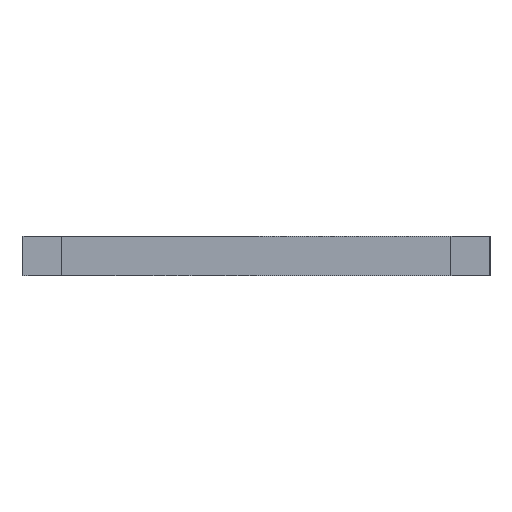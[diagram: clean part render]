
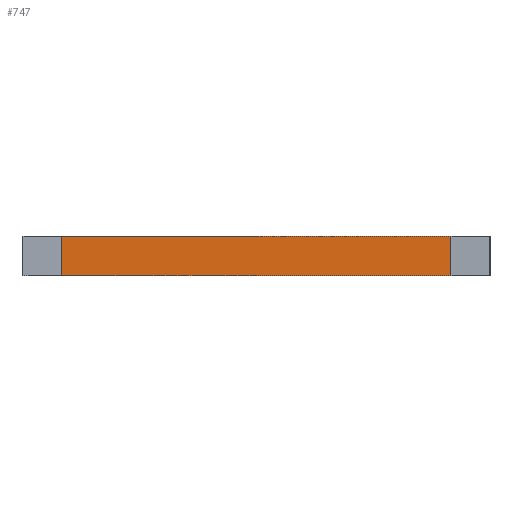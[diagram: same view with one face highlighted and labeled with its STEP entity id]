
A CAD part, left-side view. The second image highlights one B-rep face of the part: STEP entity #747.
In plain terms, the highlighted planar face has unit normal (-1, 0, 0).
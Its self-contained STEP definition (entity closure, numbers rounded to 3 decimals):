
#11 = CARTESIAN_POINT ( 'NONE',  ( 9.5, -2., 4. ) ) ;
#77 = VECTOR ( 'NONE', #827, 1000. ) ;
#81 = CARTESIAN_POINT ( 'NONE',  ( 9.5, -2., 4. ) ) ;
#114 = VERTEX_POINT ( 'NONE', #279 ) ;
#158 = CARTESIAN_POINT ( 'NONE',  ( 9.5, -2., 0. ) ) ;
#165 = VERTEX_POINT ( 'NONE', #158 ) ;
#178 = CARTESIAN_POINT ( 'NONE',  ( 9.5, -2., 0. ) ) ;
#186 = LINE ( 'NONE', #292, #375 ) ;
#191 = DIRECTION ( 'NONE',  ( 1., 0., 0. ) ) ;
#236 = CARTESIAN_POINT ( 'NONE',  ( 9.5, -42., 0. ) ) ;
#239 = CARTESIAN_POINT ( 'NONE',  ( 9.5, -2., 4. ) ) ;
#264 = EDGE_CURVE ( 'NONE', #525, #272, #186, .T. ) ;
#272 = VERTEX_POINT ( 'NONE', #236 ) ;
#279 = CARTESIAN_POINT ( 'NONE',  ( 9.5, -2., 4. ) ) ;
#292 = CARTESIAN_POINT ( 'NONE',  ( 9.5, -42., 4. ) ) ;
#334 = ORIENTED_EDGE ( 'NONE', *, *, #718, .T. ) ;
#345 = ORIENTED_EDGE ( 'NONE', *, *, #712, .F. ) ;
#360 = DIRECTION ( 'NONE',  ( 0., 0., -1. ) ) ;
#375 = VECTOR ( 'NONE', #360, 1000. ) ;
#383 = DIRECTION ( 'NONE',  ( 0., 1., 0. ) ) ;
#390 = VECTOR ( 'NONE', #631, 1000. ) ;
#406 = AXIS2_PLACEMENT_3D ( 'NONE', #11, #191, #383 ) ;
#468 = ORIENTED_EDGE ( 'NONE', *, *, #542, .T. ) ;
#484 = LINE ( 'NONE', #81, #77 ) ;
#503 = ORIENTED_EDGE ( 'NONE', *, *, #264, .F. ) ;
#525 = VERTEX_POINT ( 'NONE', #681 ) ;
#539 = PLANE ( 'NONE',  #406 ) ;
#542 = EDGE_CURVE ( 'NONE', #114, #165, #484, .T. ) ;
#583 = LINE ( 'NONE', #178, #390 ) ;
#613 = EDGE_LOOP ( 'NONE', ( #334, #503, #345, #468 ) ) ;
#631 = DIRECTION ( 'NONE',  ( 0., -1., 0. ) ) ;
#640 = DIRECTION ( 'NONE',  ( 0., -1., 0. ) ) ;
#650 = FACE_OUTER_BOUND ( 'NONE', #613, .T. ) ;
#681 = CARTESIAN_POINT ( 'NONE',  ( 9.5, -42., 4. ) ) ;
#712 = EDGE_CURVE ( 'NONE', #114, #525, #770, .T. ) ;
#718 = EDGE_CURVE ( 'NONE', #165, #272, #583, .T. ) ;
#747 = ADVANCED_FACE ( 'NONE', ( #650 ), #539, .F. ) ;
#769 = VECTOR ( 'NONE', #640, 1000. ) ;
#770 = LINE ( 'NONE', #239, #769 ) ;
#827 = DIRECTION ( 'NONE',  ( 0., 0., -1. ) ) ;
